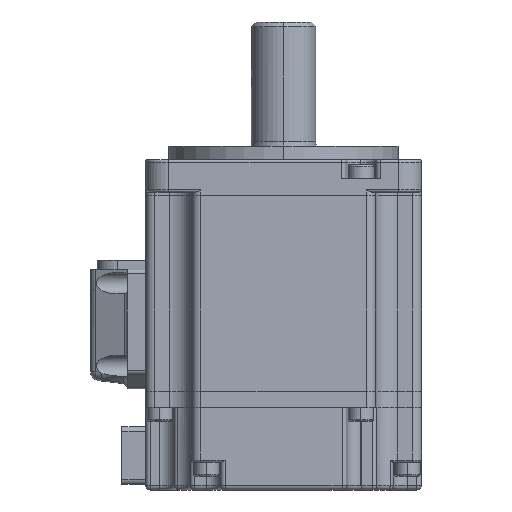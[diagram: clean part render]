
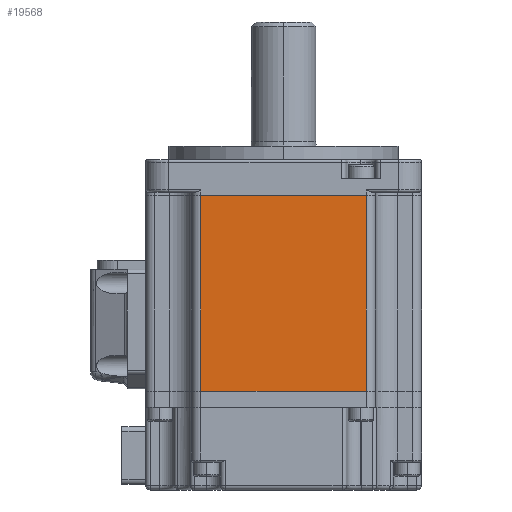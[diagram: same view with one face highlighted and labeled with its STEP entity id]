
A CAD part, left-side view. The second image highlights one B-rep face of the part: STEP entity #19568.
In plain terms, the highlighted planar face has unit normal (-1, 0, 0).
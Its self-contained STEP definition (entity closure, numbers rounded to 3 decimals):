
#584 = LINE ( 'NONE', #5502, #11101 ) ;
#1409 = VECTOR ( 'NONE', #9783, 1000. ) ;
#2478 = ORIENTED_EDGE ( 'NONE', *, *, #19256, .F. ) ;
#2756 = ORIENTED_EDGE ( 'NONE', *, *, #14458, .T. ) ;
#3512 = CARTESIAN_POINT ( 'NONE',  ( -35.429, -20.143, 56.85 ) ) ;
#3545 = CARTESIAN_POINT ( 'NONE',  ( -35.429, 15.857, 14.35 ) ) ;
#4311 = ORIENTED_EDGE ( 'NONE', *, *, #19982, .T. ) ;
#4375 = VECTOR ( 'NONE', #4398, 1000. ) ;
#4398 = DIRECTION ( 'NONE',  ( 0., 1., 0. ) ) ;
#4948 = CARTESIAN_POINT ( 'NONE',  ( -35.429, -20.143, 14.35 ) ) ;
#5276 = EDGE_CURVE ( 'NONE', #10939, #5699, #10415, .T. ) ;
#5502 = CARTESIAN_POINT ( 'NONE',  ( -35.429, 15.857, 14.35 ) ) ;
#5699 = VERTEX_POINT ( 'NONE', #3545 ) ;
#6779 = DIRECTION ( 'NONE',  ( 1., 0., 0. ) ) ;
#7491 = ORIENTED_EDGE ( 'NONE', *, *, #5276, .F. ) ;
#8636 = DIRECTION ( 'NONE',  ( 0., -1., 0. ) ) ;
#8872 = PLANE ( 'NONE',  #14517 ) ;
#9282 = DIRECTION ( 'NONE',  ( 0., 1., 0. ) ) ;
#9783 = DIRECTION ( 'NONE',  ( 0., 0., 1. ) ) ;
#10415 = LINE ( 'NONE', #16549, #10692 ) ;
#10692 = VECTOR ( 'NONE', #9282, 1000. ) ;
#10920 = LINE ( 'NONE', #15484, #4375 ) ;
#10939 = VERTEX_POINT ( 'NONE', #13222 ) ;
#11101 = VECTOR ( 'NONE', #16851, 1000. ) ;
#12245 = LINE ( 'NONE', #20708, #1409 ) ;
#13222 = CARTESIAN_POINT ( 'NONE',  ( -35.429, -20.143, 14.35 ) ) ;
#14126 = VERTEX_POINT ( 'NONE', #23579 ) ;
#14458 = EDGE_CURVE ( 'NONE', #15754, #14126, #10920, .T. ) ;
#14517 = AXIS2_PLACEMENT_3D ( 'NONE', #4948, #6779, #8636 ) ;
#15484 = CARTESIAN_POINT ( 'NONE',  ( -35.429, -20.143, 56.85 ) ) ;
#15754 = VERTEX_POINT ( 'NONE', #3512 ) ;
#16549 = CARTESIAN_POINT ( 'NONE',  ( -35.429, -20.143, 14.35 ) ) ;
#16851 = DIRECTION ( 'NONE',  ( 0., 0., 1. ) ) ;
#19256 = EDGE_CURVE ( 'NONE', #5699, #14126, #584, .T. ) ;
#19568 = ADVANCED_FACE ( 'NONE', ( #23102 ), #8872, .F. ) ;
#19982 = EDGE_CURVE ( 'NONE', #10939, #15754, #12245, .T. ) ;
#20708 = CARTESIAN_POINT ( 'NONE',  ( -35.429, -20.143, 14.35 ) ) ;
#23102 = FACE_OUTER_BOUND ( 'NONE', #23323, .T. ) ;
#23323 = EDGE_LOOP ( 'NONE', ( #2756, #2478, #7491, #4311 ) ) ;
#23579 = CARTESIAN_POINT ( 'NONE',  ( -35.429, 15.857, 56.85 ) ) ;
